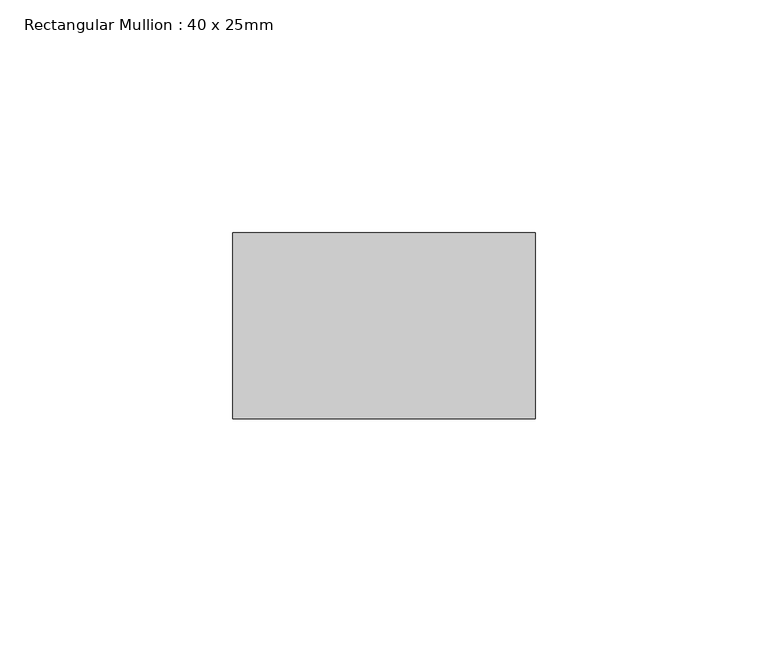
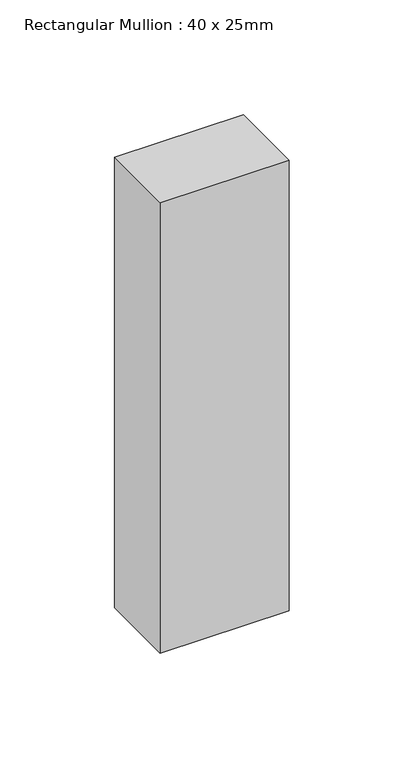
"""IFC4 building model written with IfcOpenShell, lengths in millimetres: member geometry, Rectangular Mullion : 40 x 25mm."""

from ifc_helpers import new_model, si_unit, frame, origin, place, context, project, spatial, polyline, outline, extrude, source, transform, mapped, element, save


def rectangular_mullion_40_x_25mm_c86b5be3(model_context):
    return source(origin(), model_context, "Body", "SweptSolid", [
        extrude(outline(polyline([(0.0, -20.0), (0.0, -60.0), (-65.0, -60.0), (-65.0, -20.0), (0.0, -20.0)])), frame((0.0, 0.0, -240.0), z_axis=(0.0, 0.0, 1.0), x_axis=(1.0, 0.0, 0.0)), (0.0, 0.0, 1.0), 240.0),
    ])


if __name__ == "__main__":
    model = new_model("IFC4")
    model_context = context("Model", 3, world=origin())
    ifc_project = project(units=[si_unit("LENGTHUNIT", "METRE", prefix="MILLI")], contexts=[model_context])
    site = spatial("IfcSite", under=ifc_project)
    building = spatial("IfcBuilding", under=site)
    placement = place(None, origin())
    rectangular_mullion_40_x_25mm_shape = rectangular_mullion_40_x_25mm_c86b5be3(model_context)
    element("IfcMember", 1, ObjectType="Rectangular Mullion : 40 x 25mm", at=placement, inside=building, context=model_context, shape_type="MappedRepresentation", body=[
        mapped(rectangular_mullion_40_x_25mm_shape, transform((0.0, 0.0, 0.0), x_axis=(1.0, 0.0, 0.0), y_axis=(0.0, 1.0, 0.0), z_axis=(0.0, 0.0, 1.0))),
    ])
    save(model, "model.ifc")
